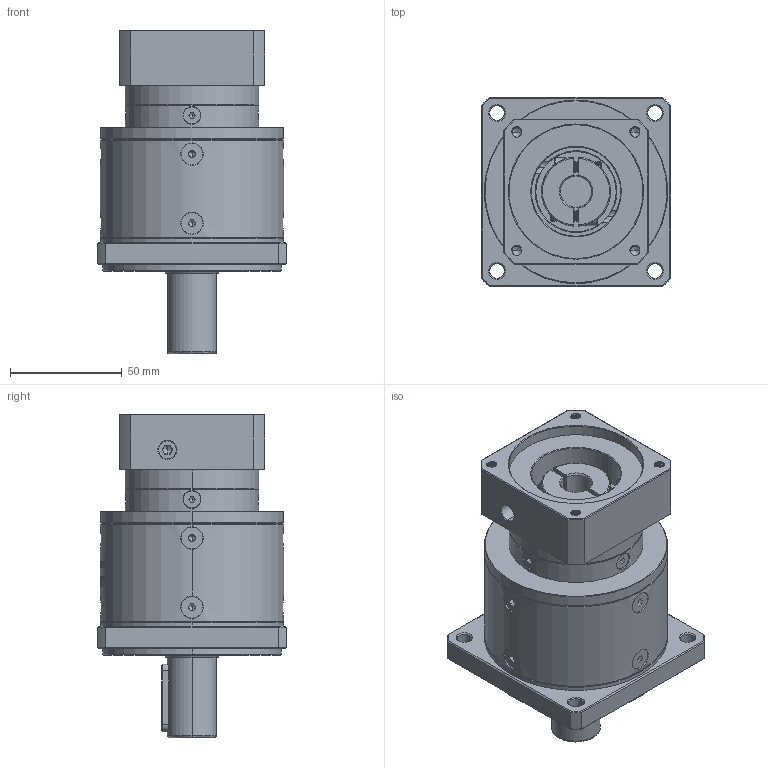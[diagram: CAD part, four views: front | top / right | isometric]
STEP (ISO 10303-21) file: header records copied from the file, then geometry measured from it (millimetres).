
FILE_DESCRIPTION (( 'STEP AP214' ), '1' );
FILE_NAME ('ZF80-D22-L2-14-60-75-M5.step', '2022-05-08T09:26:30', ( '' ), ( 'Microsoft' ), 'SwSTEP 2.0', 'SolidWorks 2016', '' );
FILE_SCHEMA (( 'AUTOMOTIVE_DESIGN' ));
Length unit declared in the file: millimetre
Products named in the file (1): ZF80-D22-L2-14-60-75-M5
Bounding box: 85 x 85 x 145 mm (x, y, z)
Volume: 484138.8 mm3; surface area: 70703.6 mm2
Topology: 18 solids, 18 shells, 2046 faces, 5347 edges, 3398 vertices
Faces by surface type: plane 953, cylinder 425, bspline 328, cone 326, torus 14
Entity records: 111053 total; most frequent: CARTESIAN_POINT 41787, ORIENTED_EDGE 10618, DIRECTION 8469, EDGE_CURVE 5309, VERTEX_POINT 3398, LINE 2871, VECTOR 2871, AXIS2_PLACEMENT_3D 2799
